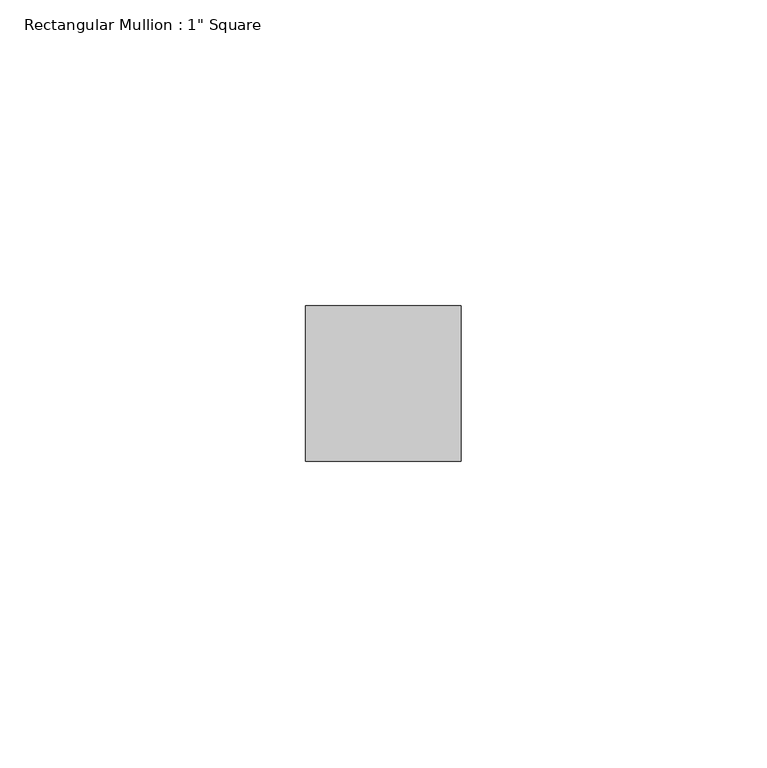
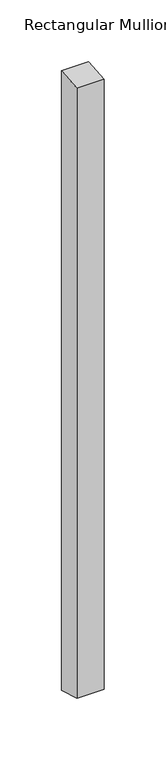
"""IFC4 building model written with IfcOpenShell, lengths in millimetres: member geometry."""

from ifc_helpers import new_model, si_unit, origin, place, context, project, spatial, faceted_brep, source, transform, mapped, element, save


def member_95f517b8(model_context):
    return source(origin(), model_context, "Body", "Brep", [
        faceted_brep([(-25.4, 12.7, 0.981556), (0.0, 12.7, 0.9860006), (0.0, 12.7, -613.3084309), (-25.4, 12.7, -613.2917144), (-25.4, -12.7, -0.9904452), (-25.4, -12.7, -605.8748526), (0.0, -12.7, -0.9860006), (0.0, -12.7, -605.8915691)], [[[0, 1, 2, 3]], [[4, 0, 3, 5]], [[6, 4, 5, 7]], [[1, 6, 7, 2]], [[1, 0, 4, 6]], [[2, 7, 5, 3]]]),
    ])


if __name__ == "__main__":
    model = new_model("IFC4")
    model_context = context("Model", 3, world=origin())
    ifc_project = project(units=[si_unit("LENGTHUNIT", "METRE", prefix="MILLI")], contexts=[model_context])
    site = spatial("IfcSite", under=ifc_project)
    building = spatial("IfcBuilding", under=site)
    placement = place(None, origin())
    member_shape = member_95f517b8(model_context)
    element("IfcMember", 1, ObjectType="Rectangular Mullion : 1\" Square", at=placement, inside=building, context=model_context, shape_type="MappedRepresentation", body=[
        mapped(member_shape, transform((0.0, 0.0, 0.0), x_axis=(1.0, 0.0, 0.0), y_axis=(0.0, 1.0, 0.0), z_axis=(0.0, 0.0, 1.0))),
    ])
    save(model, "model.ifc")
